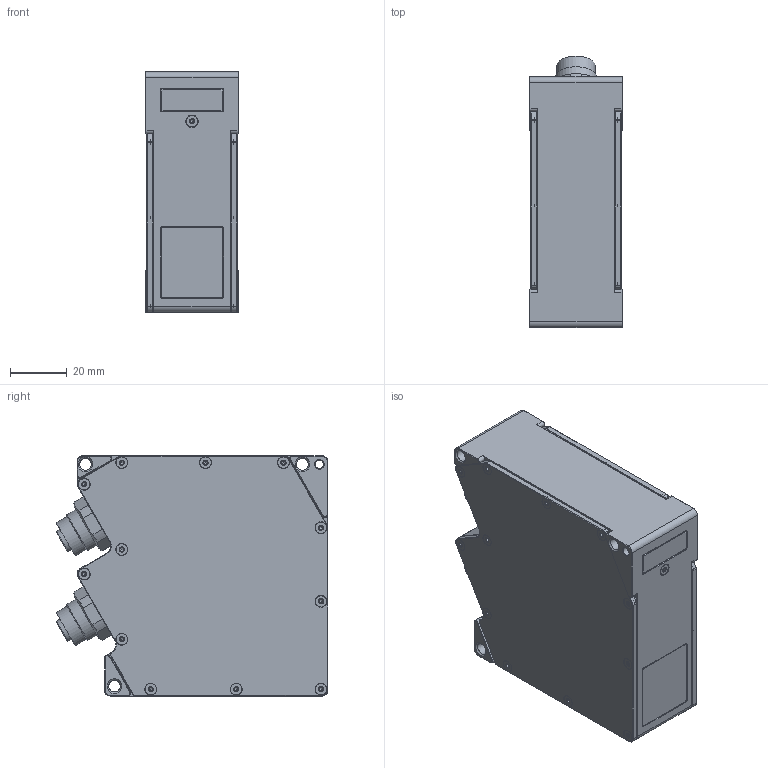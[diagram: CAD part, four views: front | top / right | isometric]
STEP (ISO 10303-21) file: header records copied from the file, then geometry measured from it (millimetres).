
FILE_DESCRIPTION (( 'STEP AP203' ), '1' );
FILE_NAME ('Sensor LLT26xx_29xx-1.STEP', '2013-02-07T15:43:49', ( 'RSM' ), ( '' ), 'SwSTEP 2.0', 'SolidWorks 2012', '' );
FILE_SCHEMA (( 'CONFIG_CONTROL_DESIGN' ));
Length unit declared in the file: millimetre
Products named in the file (1): Sensor LLT26xx_29xx-1
Bounding box: 33 x 96.12 x 85.05 mm (x, y, z)
Volume: 104410.2 mm3; surface area: 60389.6 mm2
Topology: 1 solids, 78 shells, 1864 faces, 4686 edges, 3057 vertices
Faces by surface type: cylinder 755, plane 709, cone 215, bspline 181, torus 4
Full cylindrical faces by diameter (mm): 1.6 x34, 2 x55, 2.2 x24, 3 x1, 4 x25, 4.1 x3, 4.2 x30, 4.4 x1, 4.8 x1, 5 x1, 8.1 x2, 10 x1, 10.92 x2, 11 x1, 12.5 x2, 13.5 x2, 14.75 x2, 15 x1, 16 x2, 18 x2, 18.5 x2, 21.2 x1, 22 x2
Entity records: 65894 total; most frequent: CARTESIAN_POINT 25214, ORIENTED_EDGE 8316, DIRECTION 7550, EDGE_CURVE 4158, VERTEX_POINT 2887, AXIS2_PLACEMENT_3D 2737, EDGE_LOOP 2425, LINE 2076
